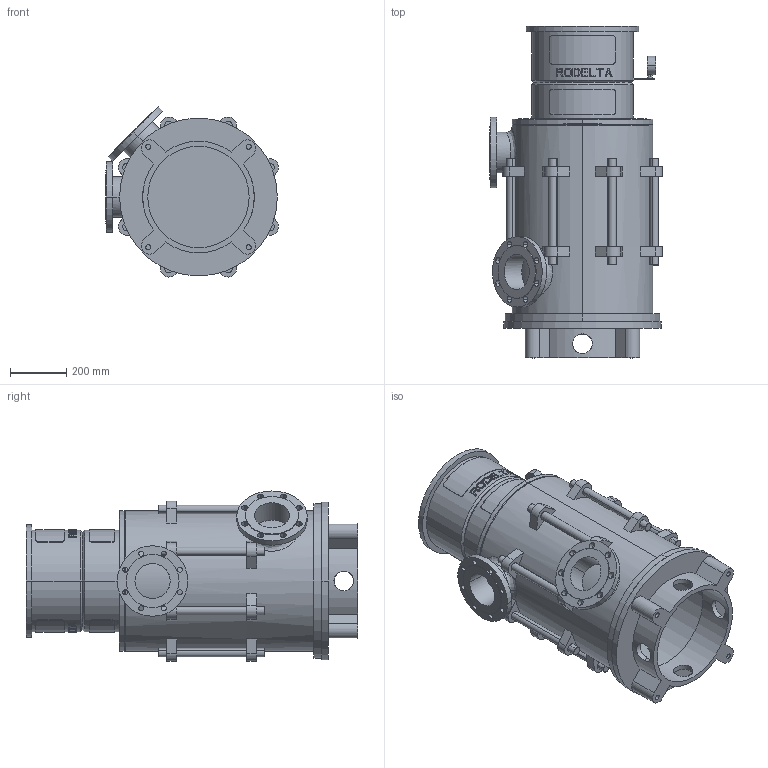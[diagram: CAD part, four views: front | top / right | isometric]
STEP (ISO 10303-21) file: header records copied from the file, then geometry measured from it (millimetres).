
FILE_DESCRIPTION((''),'2;1');
FILE_NAME('LS5_3TR_0GR_TOT_30KW','2023-08-08T',('Lyritlocal'),(''),'PRO/ENGINEER BY PARAMETRIC TECHNOLOGY CORPORATION, 2016360','PRO/ENGINEER BY PARAMETRIC TECHNOLOGY CORPORATION, 2016360','');
FILE_SCHEMA(('CONFIG_CONTROL_DESIGN'));
Length unit declared in the file: millimetre
Products named in the file (1): LS5_3TR_0GR_TOT_30KW
Bounding box: 614.04 x 1178 x 603.65 mm (x, y, z)
Volume: 34910265.8 mm3; surface area: 4909522.2 mm2
Topology: 3 solids, 7 shells, 672 faces, 1747 edges, 1158 vertices
Faces by surface type: plane 414, cylinder 242, cone 12, bspline 4
Entity records: 21965 total; most frequent: CARTESIAN_POINT 5521, ORIENTED_EDGE 3478, DIRECTION 3269, EDGE_CURVE 1747, AXIS2_PLACEMENT_3D 1241, VERTEX_POINT 1158, EDGE_LOOP 809, VECTOR 787
